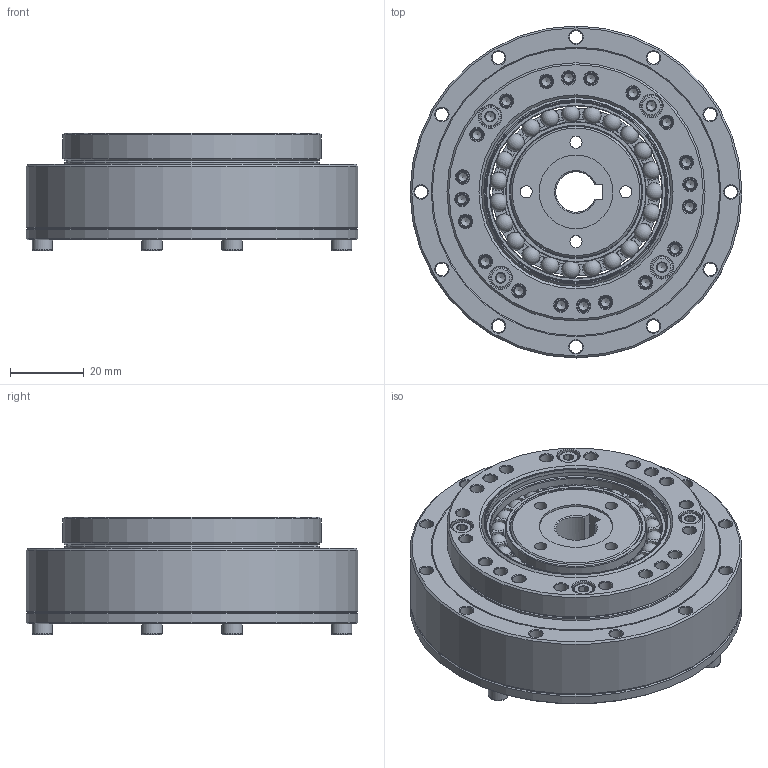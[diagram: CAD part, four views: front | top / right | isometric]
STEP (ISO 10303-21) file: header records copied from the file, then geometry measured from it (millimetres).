
FILE_DESCRIPTION(/* description */ (''),/* implementation_level */ '2;1');
FILE_NAME(/* name */ 'FHG-20-XX-U-I（孔径11）.stp',/* time_stamp */ '2024-11-30T14:51:53+08:00',/* author */ (''),/* organization */ (''),/* preprocessor_version */ 'ST-DEVELOPER v16.7',/* originating_system */ 'SIEMENS PLM Software NX 12.0',/* authorisation */ '');
FILE_SCHEMA (('AUTOMOTIVE_DESIGN { 1 0 10303 214 3 1 1 1 }'));
Length unit declared in the file: millimetre
Products named in the file (15): EB364907-20KCH-46; EB364907-20KCH-04; EB364907-20KCH-02; EB364907-20KCH-01; TC-69x78x5; GB-T70.1-2000,M3x8; GB-T70.1-2000,M3x10; 发生器FSG-20-XXDL直径11_stp; O型密封圈57.6-55-0.75; O型密封圈78.8-75-1.1; 刚轮FHG-20; 柔轮FHG-20; EB364907-20KCH_stp; 交叉轴承LHT-20; FHG-20-XX-U-I（孔径11）
Assembly tree (20 placements, depth 3):
  FHG-20-XX-U-I（孔径11）
    柔轮FHG-20
    刚轮FHG-20
    交叉轴承LHT-20
      TC-69x78x5
    O型密封圈78.8-75-1.1
    O型密封圈57.6-55-0.75
    EB364907-20KCH_stp
      EB364907-20KCH-01
      EB364907-20KCH-02
      EB364907-20KCH-04
      EB364907-20KCH-46
    发生器FSG-20-XXDL直径11_stp
    GB-T70.1-2000,M3x10  x4
    GB-T70.1-2000,M3x8  x4
Bounding box: 90 x 90 x 32 mm (x, y, z)
Volume: 95520.5 mm3; surface area: 78160.1 mm2
Topology: 42 solids, 42 shells, 811 faces, 1898 edges, 1155 vertices
Faces by surface type: cone 277, plane 213, cylinder 210, torus 86, sphere 23, bspline 2
Full cylindrical faces by diameter (mm): 2.05 x4, 2.5 x32, 2.874 x8, 3.3 x8, 3.5 x56, 5.5 x8, 6 x4, 20 x1, 22 x1, 33.7 x1, 35.56 x2, 38.14 x2, 39.6 x1, 43 x1, 45.4 x1, 46.71 x2, 49.073 x2, 49.663 x1, 51.018 x1, 51.24 x1, 55 x3, 57.6 x2, 63.3 x1, 68.6 x1, 69 x2, 70 x2, 70.1 x2, 71.7 x2, 75 x2, 78 x3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
Entity records: 19677 total; most frequent: CARTESIAN_POINT 4765, DIRECTION 3005, ORIENTED_EDGE 2052, AXIS2_PLACEMENT_3D 1423, EDGE_LOOP 1168, EDGE_CURVE 1026, FACE_BOUND 1021, VERTEX_POINT 883
